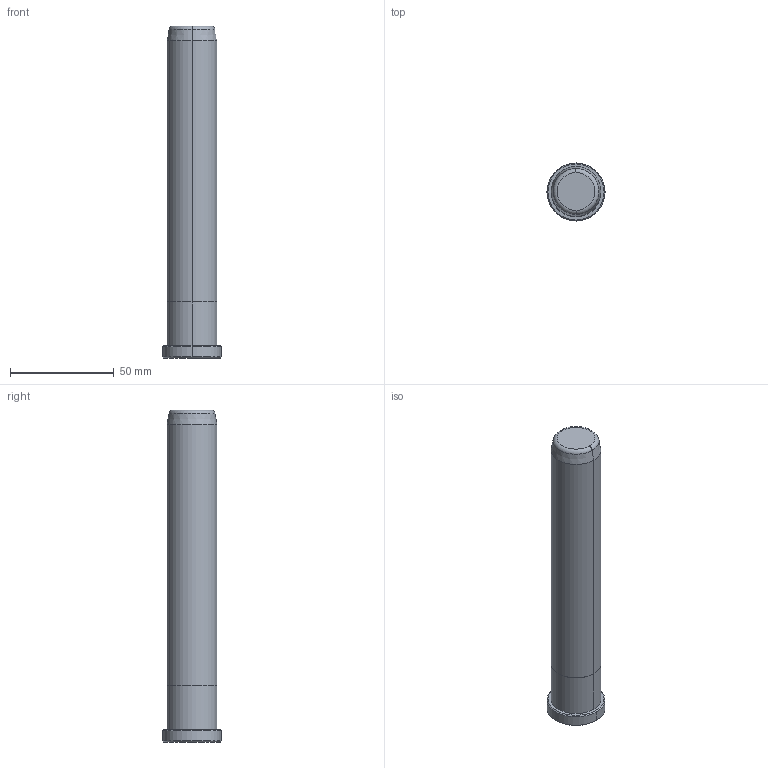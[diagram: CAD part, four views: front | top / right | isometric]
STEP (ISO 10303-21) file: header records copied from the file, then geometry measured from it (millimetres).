
FILE_DESCRIPTION((''),'2;1');
FILE_NAME('B82824160','2018-01-22T',('MANU'),(''),'PRO/ENGINEER BY PARAMETRIC TECHNOLOGY CORPORATION, 2012130','PRO/ENGINEER BY PARAMETRIC TECHNOLOGY CORPORATION, 2012130','');
FILE_SCHEMA(('CONFIG_CONTROL_DESIGN'));
Length unit declared in the file: millimetre
Products named in the file (1): B82824160
Bounding box: 28 x 28 x 160 mm (x, y, z)
Volume: 73005 mm3; surface area: 13172.6 mm2
Topology: 1 solids, 1 shells, 18 faces, 34 edges, 20 vertices
Faces by surface type: cone 6, cylinder 6, plane 4, torus 2
Entity records: 494 total; most frequent: DIRECTION 92, CARTESIAN_POINT 72, ORIENTED_EDGE 68, AXIS2_PLACEMENT_3D 40, EDGE_CURVE 34, CIRCLE 22, VERTEX_POINT 20, EDGE_LOOP 20
